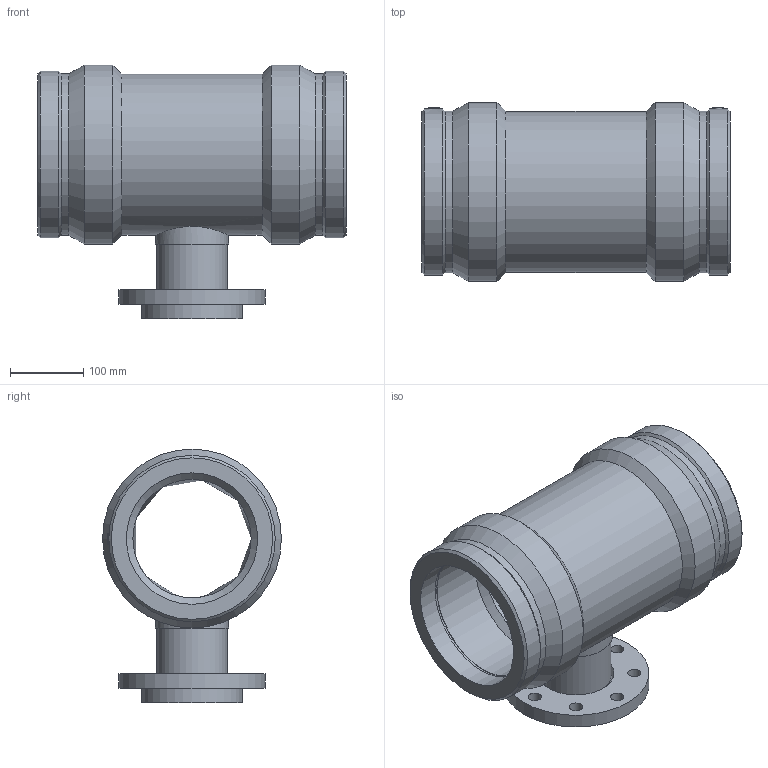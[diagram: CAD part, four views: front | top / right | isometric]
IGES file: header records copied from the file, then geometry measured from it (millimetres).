
Global section: file name: 499404180080.ipt; native system: Autodesk Inventor 2015; preprocessor: unknown; author: KIM; date: 20171106.094454; units: millimetre
Bounding box: 422 x 245 x 347.5 mm (x, y, z)
Volume: 8185694.9 mm3; surface area: 717123.7 mm2
Topology: 1 solids, 2 shells, 60 faces, 136 edges, 90 vertices
Faces by surface type: revolution 21, plane 14, cylinder 13, cone 11, bspline 1
Full cylindrical faces by diameter (mm): 4 x2, 96 x1, 100 x1, 138 x1, 200 x1, 220.5 x1, 221.014 x2, 227.85 x2, 245 x2
